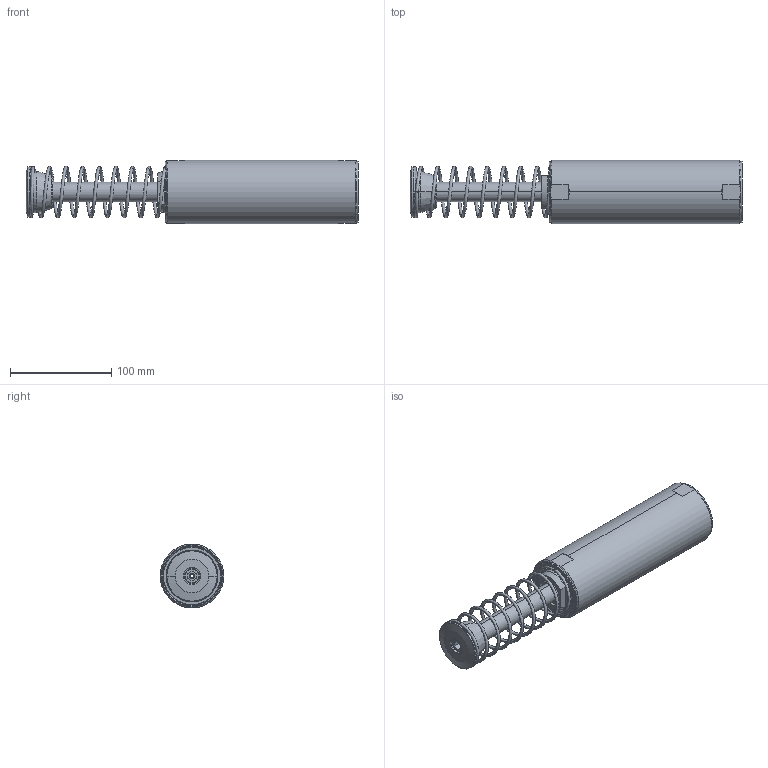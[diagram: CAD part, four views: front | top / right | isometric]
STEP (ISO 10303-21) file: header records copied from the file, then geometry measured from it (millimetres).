
FILE_DESCRIPTION (( 'STEP AP214' ), '1' );
FILE_NAME ('PMXT 2100.STEP', '2010-08-04T15:04:47', ( ' ' ), ( '' ), 'SwSTEP 2.0', 'SolidWorks 2006233', '' );
FILE_SCHEMA (( 'AUTOMOTIVE_DESIGN' ));
Length unit declared in the file: inch
Products named in the file (1): PMXT 2100
Bounding box: 327.74 x 62.87 x 62.87 mm (x, y, z)
Surface area: 77782 mm2 (no closed solid volume)
Topology: 0 solids, 9 shells, 117 faces, 283 edges, 177 vertices
Faces by surface type: cone 39, plane 38, cylinder 32, bspline 6, torus 2
Entity records: 9378 total; most frequent: CARTESIAN_POINT 5159, DIRECTION 586, ORIENTED_EDGE 516, EDGE_CURVE 283, AXIS2_PLACEMENT_3D 235, VERTEX_POINT 177, EDGE_LOOP 130, CIRCLE 123
